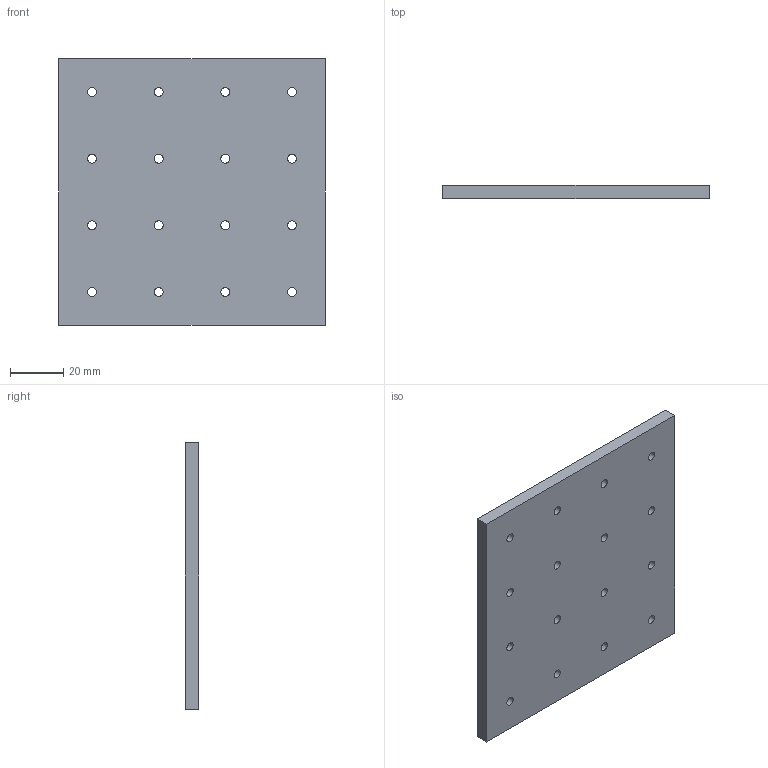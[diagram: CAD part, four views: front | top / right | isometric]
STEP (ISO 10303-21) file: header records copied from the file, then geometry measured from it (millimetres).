
FILE_DESCRIPTION(/* description */ (''),/* implementation_level */ '2;1');
FILE_NAME(/* name */ 'connection-4x4-thread.stp',/* time_stamp */ '2026-04-28T17:51:21+08:00',/* author */ ('32769'),/* organization */ (''),/* preprocessor_version */ 'ST-DEVELOPER v20',/* originating_system */ 'Autodesk Inventor 2025',/* authorisation */ '');
FILE_SCHEMA (('AUTOMOTIVE_DESIGN { 1 0 10303 214 3 1 1 }'));
Length unit declared in the file: millimetre
Products named in the file (1): connection-4x4-thread
Bounding box: 100 x 5 x 100 mm (x, y, z)
Volume: 49315.8 mm3; surface area: 22555.7 mm2
Topology: 1 solids, 1 shells, 22 faces, 60 edges, 40 vertices
Faces by surface type: cylinder 16, plane 6
Full cylindrical faces by diameter (mm): 3.3 x16
Entity records: 823 total; most frequent: DIRECTION 138, CARTESIAN_POINT 123, ORIENTED_EDGE 120, EDGE_CURVE 60, AXIS2_PLACEMENT_3D 55, EDGE_LOOP 54, VERTEX_POINT 40, FACE_BOUND 32
